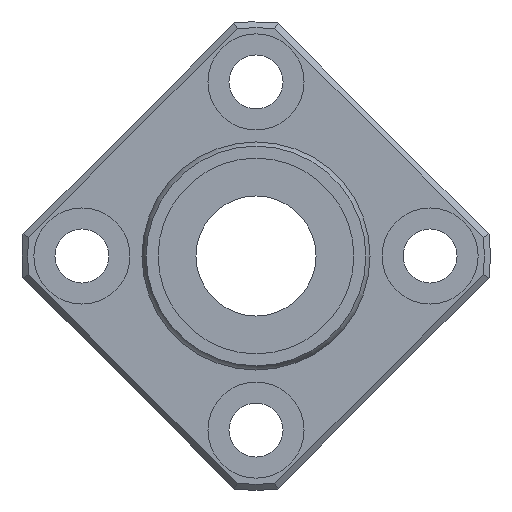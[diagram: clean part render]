
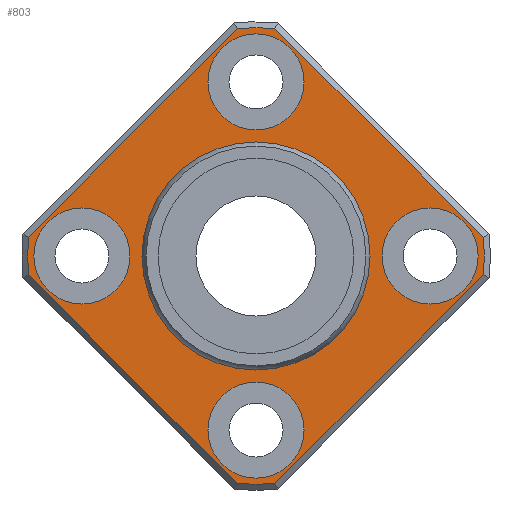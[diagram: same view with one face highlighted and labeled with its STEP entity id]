
A CAD part, left-side view. The second image highlights one B-rep face of the part: STEP entity #803.
In plain terms, the highlighted planar face has unit normal (-1, 0, 0).
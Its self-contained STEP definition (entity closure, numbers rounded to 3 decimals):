
#498=CARTESIAN_POINT('',(24.5,-1.571,-18.935));
#499=VERTEX_POINT('',#498);
#507=CARTESIAN_POINT('',(24.5,1.571,-18.935));
#508=VERTEX_POINT('',#507);
#509=CARTESIAN_POINT('',(24.5,0.0,0.0));
#510=DIRECTION('',(1.0,0.0,0.0));
#511=DIRECTION('',(0.0,0.0,-1.0));
#512=AXIS2_PLACEMENT_3D('',#509,#510,#511);
#513=CIRCLE('',#512,19.0);
#514=EDGE_CURVE('',#499,#508,#513,.T.);
#540=CARTESIAN_POINT('',(24.5,18.935,-1.571));
#541=VERTEX_POINT('',#540);
#542=CARTESIAN_POINT('',(24.5,1.571,-18.935));
#543=DIRECTION('',(0.0,0.707,0.707));
#544=VECTOR('',#543,24.556);
#545=LINE('',#542,#544);
#546=EDGE_CURVE('',#508,#541,#545,.T.);
#573=CARTESIAN_POINT('',(24.5,18.935,1.571));
#574=VERTEX_POINT('',#573);
#575=CARTESIAN_POINT('',(24.5,0.0,0.0));
#576=DIRECTION('',(1.0,0.0,0.0));
#577=DIRECTION('',(0.0,0.0,1.0));
#578=AXIS2_PLACEMENT_3D('',#575,#576,#577);
#579=CIRCLE('',#578,19.0);
#580=EDGE_CURVE('',#541,#574,#579,.T.);
#604=CARTESIAN_POINT('',(24.5,1.571,18.935));
#605=VERTEX_POINT('',#604);
#606=CARTESIAN_POINT('',(24.5,18.935,1.571));
#607=DIRECTION('',(0.0,-0.707,0.707));
#608=VECTOR('',#607,24.556);
#609=LINE('',#606,#608);
#610=EDGE_CURVE('',#574,#605,#609,.T.);
#629=CARTESIAN_POINT('',(24.5,-1.571,18.935));
#630=VERTEX_POINT('',#629);
#631=CARTESIAN_POINT('',(24.5,0.0,0.0));
#632=DIRECTION('',(1.0,0.0,0.0));
#633=DIRECTION('',(0.0,0.0,1.0));
#634=AXIS2_PLACEMENT_3D('',#631,#632,#633);
#635=CIRCLE('',#634,19.0);
#636=EDGE_CURVE('',#605,#630,#635,.T.);
#655=CARTESIAN_POINT('',(24.5,-18.935,1.571));
#656=VERTEX_POINT('',#655);
#657=CARTESIAN_POINT('',(24.5,-1.571,18.935));
#658=DIRECTION('',(0.0,-0.707,-0.707));
#659=VECTOR('',#658,24.556);
#660=LINE('',#657,#659);
#661=EDGE_CURVE('',#630,#656,#660,.T.);
#680=CARTESIAN_POINT('',(24.5,-18.935,-1.571));
#681=VERTEX_POINT('',#680);
#682=CARTESIAN_POINT('',(24.5,0.0,0.0));
#683=DIRECTION('',(1.0,0.0,0.0));
#684=DIRECTION('',(0.0,0.0,1.0));
#685=AXIS2_PLACEMENT_3D('',#682,#683,#684);
#686=CIRCLE('',#685,19.0);
#687=EDGE_CURVE('',#656,#681,#686,.T.);
#706=CARTESIAN_POINT('',(24.5,-18.935,-1.571));
#707=DIRECTION('',(0.0,0.707,-0.707));
#708=VECTOR('',#707,24.556);
#709=LINE('',#706,#708);
#710=EDGE_CURVE('',#681,#499,#709,.T.);
#733=CARTESIAN_POINT('',(24.5,0.0,14.393));
#734=DIRECTION('',(-1.0,0.0,0.0));
#735=DIRECTION('',(0.0,0.0,1.0));
#736=AXIS2_PLACEMENT_3D('',#733,#734,#735);
#737=PLANE('',#736);
#738=ORIENTED_EDGE('',*,*,#514,.F.);
#739=ORIENTED_EDGE('',*,*,#710,.F.);
#740=ORIENTED_EDGE('',*,*,#687,.F.);
#741=ORIENTED_EDGE('',*,*,#661,.F.);
#742=ORIENTED_EDGE('',*,*,#636,.F.);
#743=ORIENTED_EDGE('',*,*,#610,.F.);
#744=ORIENTED_EDGE('',*,*,#580,.F.);
#745=ORIENTED_EDGE('',*,*,#546,.F.);
#746=EDGE_LOOP('',(#738,#739,#740,#741,#742,#743,#744,#745));
#747=FACE_OUTER_BOUND('',#746,.T.);
#748=CARTESIAN_POINT('',(24.5,0.0,9.286));
#749=VERTEX_POINT('',#748);
#750=CARTESIAN_POINT('',(24.5,0.0,0.0));
#751=DIRECTION('',(-1.0,0.0,0.0));
#752=DIRECTION('',(0.0,0.0,1.0));
#753=AXIS2_PLACEMENT_3D('',#750,#751,#752);
#754=CIRCLE('',#753,9.286);
#755=EDGE_CURVE('',#749,#749,#754,.T.);
#756=ORIENTED_EDGE('',*,*,#755,.F.);
#757=EDGE_LOOP('',(#756));
#758=FACE_BOUND('',#757,.T.);
#759=CARTESIAN_POINT('',(24.5,-10.5,0.));
#760=VERTEX_POINT('',#759);
#761=CARTESIAN_POINT('',(24.5,-14.5,0.));
#762=DIRECTION('',(1.0,0.0,0.0));
#763=DIRECTION('',(0.0,1.0,0.0));
#764=AXIS2_PLACEMENT_3D('',#761,#762,#763);
#765=CIRCLE('',#764,4.0);
#766=EDGE_CURVE('',#760,#760,#765,.T.);
#767=ORIENTED_EDGE('',*,*,#766,.T.);
#768=EDGE_LOOP('',(#767));
#769=FACE_BOUND('',#768,.T.);
#770=CARTESIAN_POINT('',(24.5,18.5,0.));
#771=VERTEX_POINT('',#770);
#772=CARTESIAN_POINT('',(24.5,14.5,0.));
#773=DIRECTION('',(1.0,0.0,0.0));
#774=DIRECTION('',(0.0,1.0,0.0));
#775=AXIS2_PLACEMENT_3D('',#772,#773,#774);
#776=CIRCLE('',#775,4.0);
#777=EDGE_CURVE('',#771,#771,#776,.T.);
#778=ORIENTED_EDGE('',*,*,#777,.T.);
#779=EDGE_LOOP('',(#778));
#780=FACE_BOUND('',#779,.T.);
#781=CARTESIAN_POINT('',(24.5,4.,14.5));
#782=VERTEX_POINT('',#781);
#783=CARTESIAN_POINT('',(24.5,0.,14.5));
#784=DIRECTION('',(1.0,0.0,0.0));
#785=DIRECTION('',(0.0,1.0,0.0));
#786=AXIS2_PLACEMENT_3D('',#783,#784,#785);
#787=CIRCLE('',#786,4.0);
#788=EDGE_CURVE('',#782,#782,#787,.T.);
#789=ORIENTED_EDGE('',*,*,#788,.T.);
#790=EDGE_LOOP('',(#789));
#791=FACE_BOUND('',#790,.T.);
#792=CARTESIAN_POINT('',(24.5,4.,-14.5));
#793=VERTEX_POINT('',#792);
#794=CARTESIAN_POINT('',(24.5,0.,-14.5));
#795=DIRECTION('',(1.0,0.0,0.0));
#796=DIRECTION('',(0.0,1.0,0.0));
#797=AXIS2_PLACEMENT_3D('',#794,#795,#796);
#798=CIRCLE('',#797,4.0);
#799=EDGE_CURVE('',#793,#793,#798,.T.);
#800=ORIENTED_EDGE('',*,*,#799,.T.);
#801=EDGE_LOOP('',(#800));
#802=FACE_BOUND('',#801,.T.);
#803=ADVANCED_FACE('',(#747,#758,#769,#780,#791,#802),#737,.T.);
